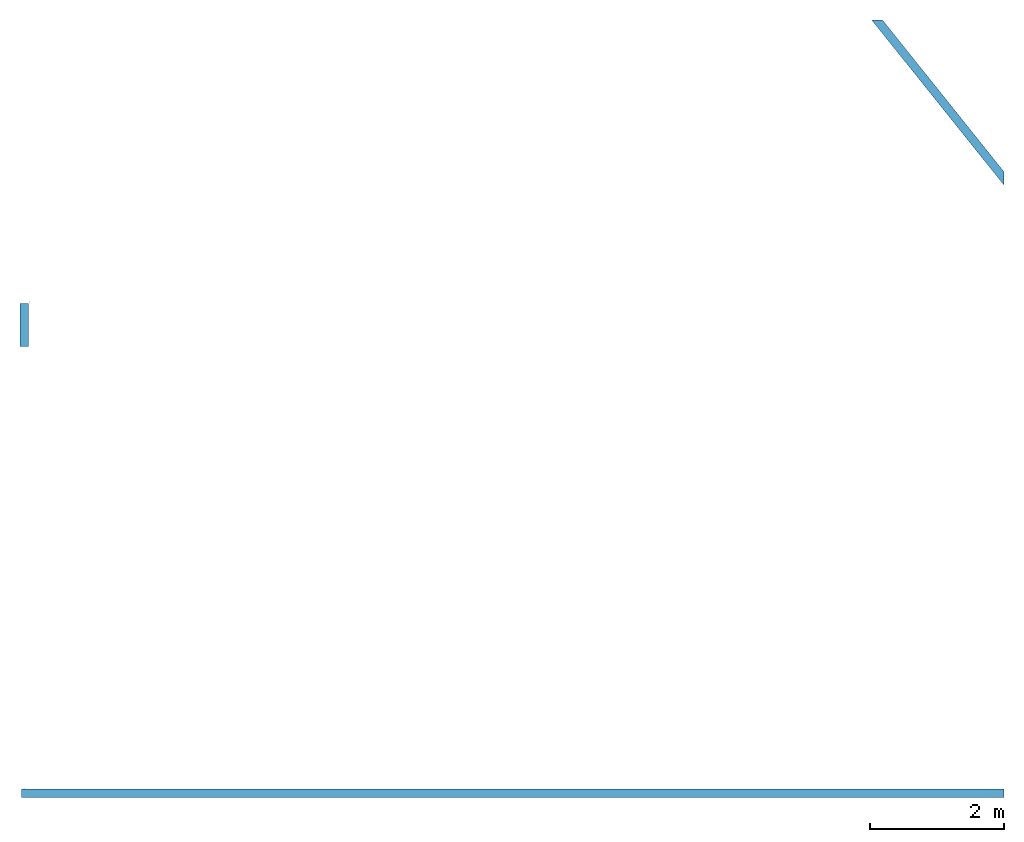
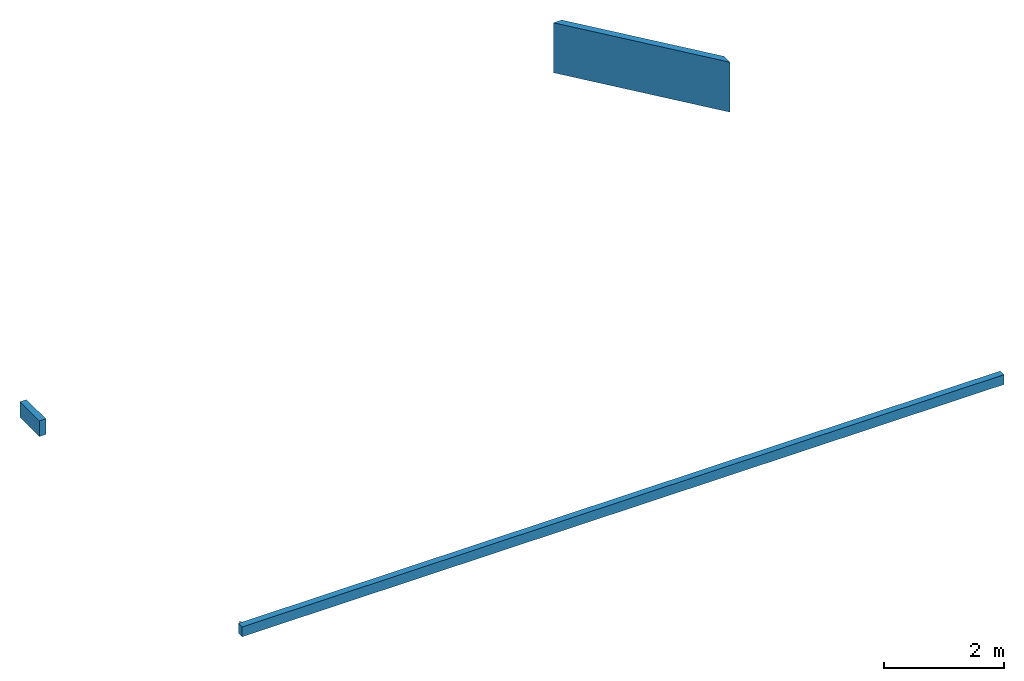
# One storey, part 2 of 3: 3 walls.
"""IFC2X3 building model written with IfcOpenShell, lengths in millimetres."""

from ifc_helpers import new_model, entity, si_unit, converted_unit, derived_unit, direction, frame, frame_2d, origin, origin_with_axes, place, context, subcontext, project, spatial, rectangle, extrude, clip, halfspace, faceted_brep, material, layer, layer_set, layer_usage, type_object, element, save


model = new_model("IFC2X3")

# Units and contexts
model_context = context("Model", 3, precision=0.01, world=frame((0.0, 4.29681676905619e-09, 0.0)), true_north=direction((4.01073788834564e-13, 1.0)))
plan_context = context("Plan", 3, precision=0.01, world=frame((0.0, 4.29681676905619e-09, 0.0)), true_north=direction((4.01073788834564e-13, 1.0)))
body_context = subcontext(model_context, "Body", "Model", "MODEL_VIEW")
ifc_project = project(units=[converted_unit("PLANEANGLEUNIT", "DEGREE", entity("IfcPositiveLengthMeasure", 0.0174532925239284), si_unit("PLANEANGLEUNIT", "RADIAN"), dimensions=[0, 0, 0, 0, 0, 0, 0]), si_unit("AREAUNIT", "SQUARE_METRE"), si_unit("LENGTHUNIT", "METRE", prefix="MILLI"), si_unit("MASSUNIT", "GRAM", prefix="KILO"), si_unit("POWERUNIT", "WATT"), si_unit("PRESSUREUNIT", "PASCAL", prefix="KILO"), si_unit("FORCEUNIT", "NEWTON", prefix="KILO"), si_unit("ELECTRICVOLTAGEUNIT", "VOLT"), si_unit("ELECTRICCURRENTUNIT", "AMPERE"), si_unit("THERMODYNAMICTEMPERATUREUNIT", "DEGREE_CELSIUS"), si_unit("TIMEUNIT", "SECOND"), si_unit("VOLUMEUNIT", "CUBIC_METRE"), derived_unit("LINEARVELOCITYUNIT", [(si_unit("LENGTHUNIT", "METRE"), 1), (si_unit("TIMEUNIT", "SECOND"), -1)]), derived_unit("VOLUMETRICFLOWRATEUNIT", [(si_unit("VOLUMEUNIT", "CUBIC_METRE"), 1), (si_unit("TIMEUNIT", "SECOND"), -1)]), derived_unit("THERMALTRANSMITTANCEUNIT", [(si_unit("POWERUNIT", "WATT"), 1), (si_unit("THERMODYNAMICTEMPERATUREUNIT", "KELVIN"), -1), (si_unit("AREAUNIT", "SQUARE_METRE"), -1)]), derived_unit("SOUNDPRESSUREUNIT", [(si_unit("PRESSUREUNIT", "PASCAL"), 1)])], contexts=[model_context, plan_context])

# Site, building, storey
site_placement = place(None, origin_with_axes())
site = spatial("IfcSite", under=ifc_project, at=site_placement, Name="ENGM", CompositionType="ELEMENT")
building_placement = place(site_placement, origin_with_axes())
building = spatial("IfcBuilding", under=site, at=building_placement, Name="TS", CompositionType="ELEMENT")
storey_placement = place(building_placement, frame((0.0, 0.0, 213700.0), z_axis=(0.0, 0.0, 1.0), x_axis=(1.0, 0.0, 0.0)))
storey = spatial("IfcBuildingStorey", under=building, at=storey_placement, Name="Nivå G - 2,0m", CompositionType="ELEMENT", Elevation=213700.0)

# Walls
ifc_material_1 = material(Name="_NSW Standard")
ifc_layer_1 = layer(ifc_material_1, 13.0)
ifc_material_2 = material(Name="_NSW Stålstender, uisolert")
ifc_layer_2 = layer(ifc_material_2, 100.0)
ifc_material_3 = material(Name="Plate - Gips")
ifc_layer_3 = layer(ifc_material_3, 13.0)
ifc_layer_set = layer_set([ifc_layer_1, ifc_layer_2, ifc_layer_3], Name="Basic Wall:A241 - MVM-100 (100/100 m-m)")
ifc_layer_usage = layer_usage(ifc_layer_set, "AXIS2", "NEGATIVE", 63.0)
wall_type = type_object("IfcWallType", Name="Basic Wall:A241 - MVM-100 (100/100 m-m)", PredefinedType="STANDARD", material=ifc_layer_set)
wall_1_placement = place(storey_placement, frame((714479.98749998, 441969.819836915, 0.0), z_axis=(0.0, 0.0, 1.0), x_axis=(0.0, -1.0, 0.0)))
element("IfcWallStandardCase", 1, at=wall_1_placement, inside=storey, type_object=wall_type, material=ifc_layer_usage, Name="Basic Wall:A241 - MVM-100 (100/100 m-m)", ObjectType="Basic Wall:A241 - MVM-100 (100/100 m-m)", context=body_context, shape_type="Clipping", body=[
    clip(extrude(rectangle(XDim=645.000000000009, YDim=125.999999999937, at=frame_2d((322.500000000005, 0.0), x_axis=(-1.0, 0.0))), origin(), (0.0, 0.0, 1.0), 319.999999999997), halfspace(frame((0.0, 0.0, -2800.0)), True)),
])
wall_2_placement = place(storey_placement, frame((726272.650563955, 447423.495667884, 0.0), z_axis=(0.0, 0.0, 1.0), x_axis=(0.625181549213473, -0.780479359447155, 0.0)))
element("IfcWall", 2, at=wall_2_placement, inside=storey, type_object=wall_type, Name="Basic Wall:A241 - MVM-100 (100/100 m-m)", ObjectType="Basic Wall:A241 - MVM-100 (100/100 m-m)", context=body_context, shape_type="Brep", body=[
    faceted_brep([(1502.51861532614, -63.0, 0.0), (1502.51861532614, -63.0, 1019.999999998), (4669.21876665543, -63.0, 1019.999999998), (4669.21876665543, -63.0, 0.0), (4511.91981979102, 63.0, 0.0), (4511.91981979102, 63.0, 1019.999999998), (1603.44745379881, 63.0, 1019.999999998), (1603.44745379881, 63.0, 0.0)], [[[0, 1, 2, 3]], [[4, 5, 6, 7]], [[3, 4, 7, 0]], [[1, 6, 5, 2]], [[5, 4, 3, 2]], [[7, 6, 1, 0]]], orient=[[False], [False], [False], [False], [False], [False]]),
])
wall_3_placement = place(storey_placement, frame((743122.0, 434638.999999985, 0.0), z_axis=(0.0, 0.0, 1.0), x_axis=(-1.0, 0.0, 0.0)))
element("IfcWall", 3, at=wall_3_placement, inside=storey, type_object=wall_type, Name="Basic Wall:A241 - MVM-100 (100/100 m-m)", ObjectType="Basic Wall:A241 - MVM-100 (100/100 m-m)", context=body_context, shape_type="Brep", body=[
    faceted_brep([(13979.4102135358, -63.0000000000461, 0.0), (13979.4102135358, -63.0000000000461, 200.000000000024), (28684.0124999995, -63.0000000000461, 200.000000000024), (28684.0124999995, -63.0000000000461, 0.0), (28684.0124999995, 62.9999999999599, 200.000000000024), (28684.0124999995, 62.9999999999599, 0.0), (13979.4102135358, 62.9999999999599, 200.000000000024), (13979.4102135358, 62.9999999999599, 0.0)], [[[0, 1, 2, 3]], [[3, 2, 4, 5]], [[6, 7, 5, 4]], [[7, 0, 3, 5]], [[1, 6, 4, 2]], [[7, 6, 1, 0]]], orient=[[False], [False], [False], [False], [False], [False]]),
])

save(model, "model.ifc")
